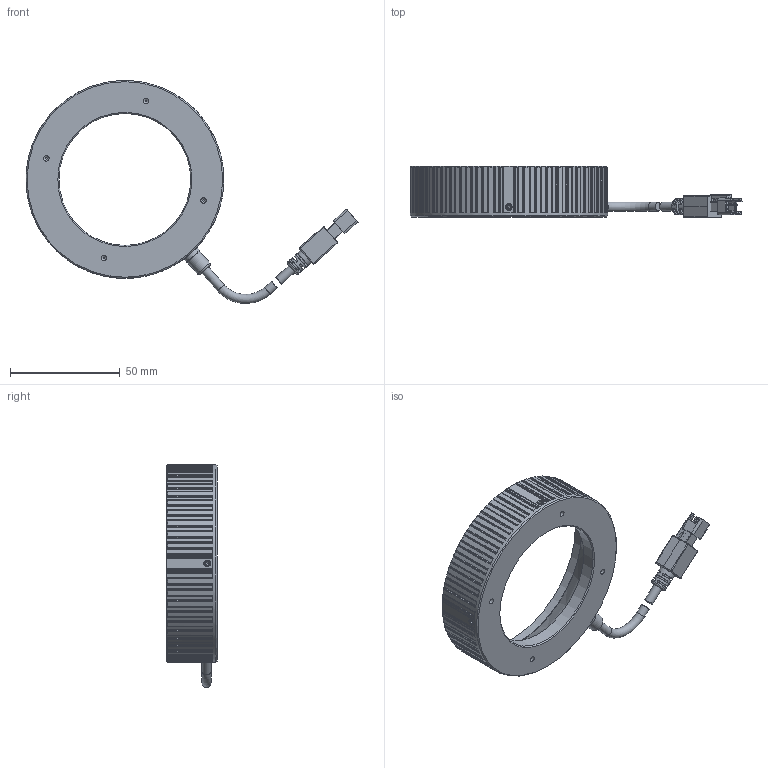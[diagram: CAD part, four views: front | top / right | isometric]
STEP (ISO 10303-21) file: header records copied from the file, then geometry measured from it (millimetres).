
FILE_DESCRIPTION (( 'STEP AP214' ), '1' );
FILE_NAME ('OPT-IRI9060-IR-V1.0尨砩芞.STEP', '2025-02-15T00:56:37', ( '' ), ( '' ), 'SwSTEP 2.0', 'SolidWorks 2016', '' );
FILE_SCHEMA (( 'AUTOMOTIVE_DESIGN' ));
Length unit declared in the file: millimetre
Products named in the file (1): OPT-IRI9060-IR-V1.0尨砩芞
Bounding box: 151.06 x 23.2 x 101.42 mm (x, y, z)
Volume: 51767.6 mm3; surface area: 28568.6 mm2
Topology: 5 solids, 5 shells, 836 faces, 2328 edges, 1504 vertices
Faces by surface type: plane 392, cylinder 329, cone 85, bspline 20, torus 10
Full cylindrical faces by diameter (mm): 1.1 x4, 1.4 x4, 1.6 x4, 2 x4, 2.2 x4, 2.5 x4, 3.5 x1, 4.1 x3, 7.5 x2, 8 x1, 60 x1, 67.8 x1, 70.683 x1, 76.08 x1, 82 x1, 86 x1, 90 x1
Entity records: 37127 total; most frequent: CARTESIAN_POINT 7632, ORIENTED_EDGE 4426, DIRECTION 3950, EDGE_CURVE 2213, VERTEX_POINT 1469, AXIS2_PLACEMENT_3D 1440, LINE 1070, VECTOR 1070
